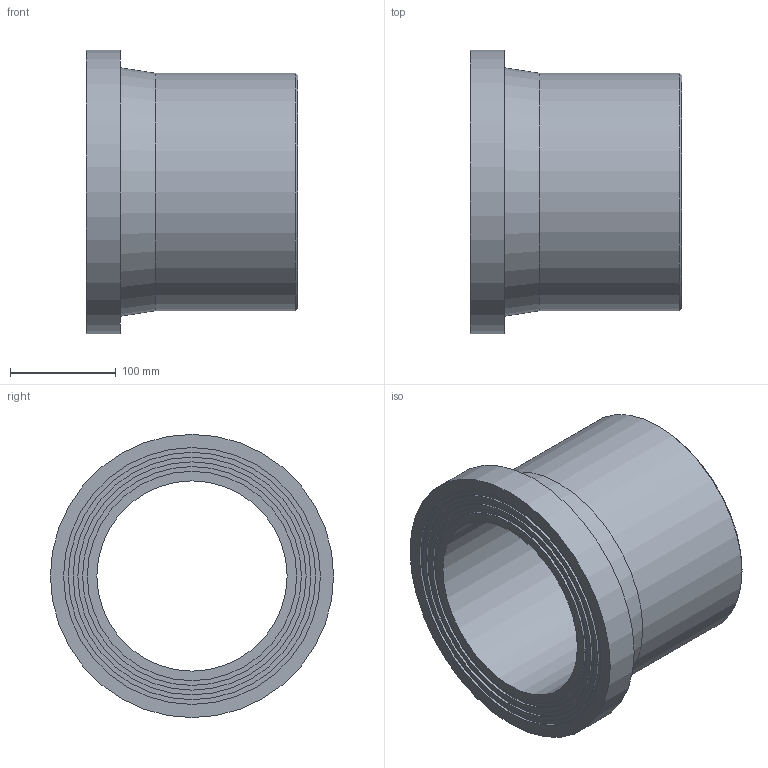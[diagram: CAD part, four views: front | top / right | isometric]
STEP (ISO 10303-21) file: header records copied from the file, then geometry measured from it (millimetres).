
FILE_DESCRIPTION(/* description */ ('Stub Flange 225'),/* implementation_level */ '2;1');
FILE_NAME(/* name */ 'C:\Dropbox\KIMPROJECTS-Inventor\99-16-3568-Processing\ElectroFusion Fittings\31.03.19\490207\490207225.ipt.stp',/* time_stamp */ '2019-03-31T18:57:51+03:00',/* author */ ('Кирилл'),/* organization */ (''),/* preprocessor_version */ 'ST-DEVELOPER v15.6',/* originating_system */ 'Autodesk Inventor 2015',/* authorisation */ '');
FILE_SCHEMA (('AUTOMOTIVE_DESIGN { 1 0 10303 214 3 1 1 }'));
Length unit declared in the file: millimetre
Products named in the file (1): 490207225
Bounding box: 200 x 268 x 268 mm (x, y, z)
Volume: 3431926.3 mm3; surface area: 326310.1 mm2
Topology: 1 solids, 1 shells, 20 faces, 31 edges, 20 vertices
Faces by surface type: cylinder 9, plane 9, cone 2
Full cylindrical faces by diameter (mm): 180 x1, 198 x1, 207 x1, 216 x1, 225 x2, 234 x1, 243 x1, 268 x1
Entity records: 432 total; most frequent: DIRECTION 82, CARTESIAN_POINT 61, AXIS2_PLACEMENT_3D 41, EDGE_LOOP 40, ORIENTED_EDGE 40, FACE_BOUND 20, FACE_OUTER_BOUND 20, CIRCLE 20
